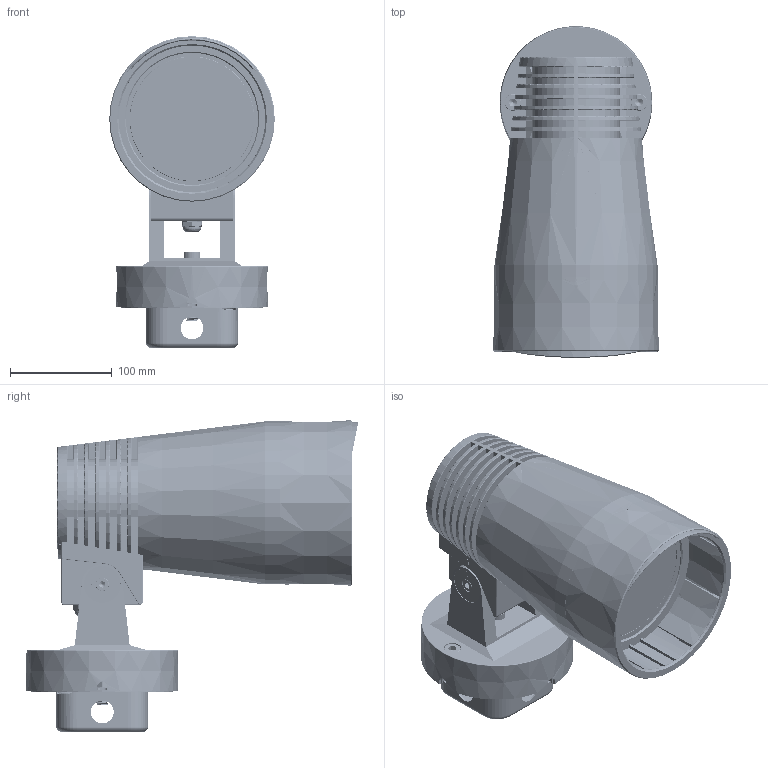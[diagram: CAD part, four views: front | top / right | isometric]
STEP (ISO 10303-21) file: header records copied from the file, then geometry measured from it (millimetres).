
FILE_DESCRIPTION((''),'2;1');
FILE_NAME('3BJMT_ASM','2024-09-04T',('Administrator'),(''),'CREO PARAMETRIC BY PTC INC, 2015200','CREO PARAMETRIC BY PTC INC, 2015200','');
FILE_SCHEMA(('CONFIG_CONTROL_DESIGN'));
Products named in the file (46): M4X55_M3___; M6-LS; PRODUCT_62640; 3BJ____-11979; HEXAGON_SOCKET_COUNTERSU-110164; 3BJ___-105411; PGB9__; 3BJ-A___; 3BJ-B___; 3BJ_____-204636; CROSS_RECESSED_PAN_HEAD_S-14334; 3BJ_____-11502; CROSS_RECESSED_COUNTERSU-207539; 3BJ_____-12457; HEXAGON_SOCKET_COUNTERSU-110608; 3BJ___-107786; 2EE___; 3BJ_____-108271; 3BJ___-205609; B15; CROSS_RECESSED_COUNTERSU-109652; CROSS_RECESSED_PAN_HEAD_S-13401; 3BJ_______; 3BJ_____-205117; 3BJ____-12934; 3BJ_______ASM; 3BJ_______A; 3BJ_________-204167; 3BJ__-208000_ASM; ZGM-1; 3BJ-18ASSEM1_1_ASM; 3BJ-A1; U_____Y_ASM; 3BJ-A2; 7LY-FAPAOMIAN; ___X__1_3BJ_ASM; 3BJ-C12; 3BJ____-211334; SOCKET_HEAD_CAP_SCREW_ISO_ISO_4; 7BM-2021-1-19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
Assembly tree (86 placements, depth 5):
  3BJMT_ASM
    3BJ-18ASSEM1_1_ASM
      3BJ__-208000_ASM
        M4X55_M3___
        M6-LS
        PRODUCT_62640
        3BJ____-11979
        HEXAGON_SOCKET_COUNTERSU-110164
        3BJ___-105411
        PGB9__
        3BJ-A___
        3BJ-B___
        3BJ_____-204636
        CROSS_RECESSED_PAN_HEAD_S-14334  x2
        3BJ_____-11502
        CROSS_RECESSED_COUNTERSU-207539
        3BJ_____-12457
        HEXAGON_SOCKET_COUNTERSU-110608
        3BJ___-107786
        2EE___
        3BJ_____-108271
        3BJ_______ASM
          3BJ___-205609
          B15  x18
          CROSS_RECESSED_COUNTERSU-109652  x6
          CROSS_RECESSED_PAN_HEAD_S-13401  x2
          3BJ_______
          3BJ_____-205117
          3BJ____-12934
        3BJ_______A
        3BJ_________-204167
      M6-LS  x13
      3BJ-B___
      ZGM-1
    3BJ-F1_ASM
      ___X__1_3BJ_ASM
        U_____Y_ASM
          3BJ-A1
        3BJ-A2
        7LY-FAPAOMIAN
      3BJ-C12
      3BJ____-211334  x2
      SOCKET_HEAD_CAP_SCREW_ISO_ISO_4  x2
      7BM-2021-1-19
      6P-XIANKOU
      M18J______
      M18L24______
      M10-15  x2
Bounding box: 162.41 x 325.85 x 305.87 mm (x, y, z)
Volume: 2030816.1 mm3; surface area: 1157200.7 mm2
Topology: 81 solids, 81 shells, 7144 faces, 17971 edges, 11226 vertices
Faces by surface type: plane 2902, cylinder 1857, cone 1566, extrusion 503, torus 146, bspline 138, sphere 18, revolution 14
Entity records: 170212 total; most frequent: CARTESIAN_POINT 61142, ORIENTED_EDGE 23022, DIRECTION 21753, EDGE_CURVE 11511, AXIS2_PLACEMENT_3D 7539, VERTEX_POINT 7491, VECTOR 6661, LINE 6312
